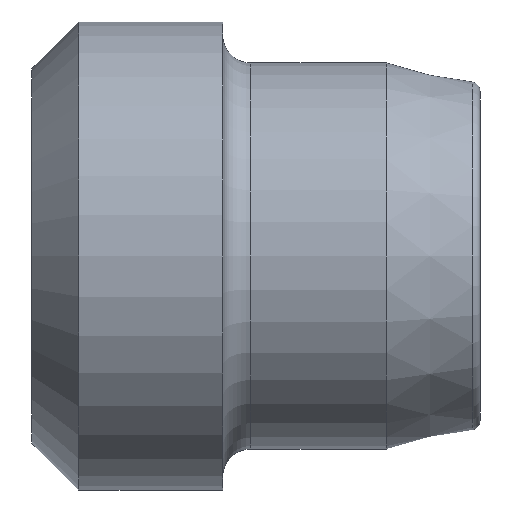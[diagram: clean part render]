
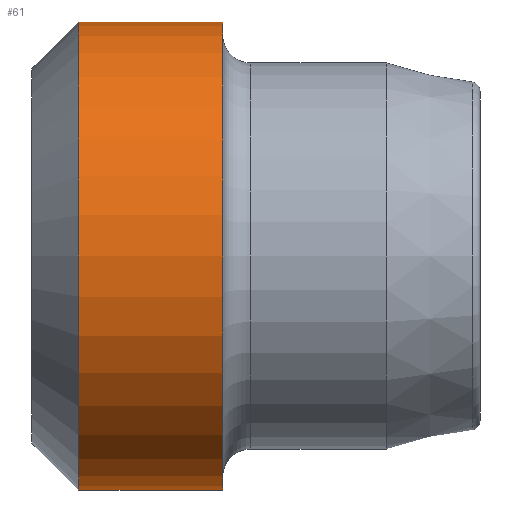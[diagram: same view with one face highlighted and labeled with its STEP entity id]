
A CAD part, front view. The second image highlights one B-rep face of the part: STEP entity #61.
In plain terms, the highlighted cylindrical face has radius 5 mm (diameter 10 mm), a full revolution.
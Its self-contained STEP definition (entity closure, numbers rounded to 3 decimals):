
#61 = ADVANCED_FACE( '', ( #130, #131 ), #132, .T. );
#130 = FACE_OUTER_BOUND( '', #231, .T. );
#131 = FACE_OUTER_BOUND( '', #232, .T. );
#132 = CYLINDRICAL_SURFACE( '', #233, 5. );
#231 = EDGE_LOOP( '', ( #311 ) );
#232 = EDGE_LOOP( '', ( #312 ) );
#233 = AXIS2_PLACEMENT_3D( '', #313, #314, #315 );
#311 = ORIENTED_EDGE( '', *, *, #344, .F. );
#312 = ORIENTED_EDGE( '', *, *, #335, .F. );
#313 = CARTESIAN_POINT( '', ( -2.788, 1.467, 0. ) );
#314 = DIRECTION( '', ( -1., 0., 0. ) );
#315 = DIRECTION( '', ( 0., 1., 0. ) );
#335 = EDGE_CURVE( '', #365, #365, #366, .T. );
#344 = EDGE_CURVE( '', #380, #380, #381, .T. );
#365 = VERTEX_POINT( '', #410 );
#366 = CIRCLE( '', #411, 5. );
#380 = VERTEX_POINT( '', #425 );
#381 = CIRCLE( '', #426, 5. );
#410 = CARTESIAN_POINT( '', ( -0.75, 6.467, 0. ) );
#411 = AXIS2_PLACEMENT_3D( '', #454, #455, #456 );
#425 = CARTESIAN_POINT( '', ( -3.825, -3.533, 0. ) );
#426 = AXIS2_PLACEMENT_3D( '', #472, #473, #474 );
#454 = CARTESIAN_POINT( '', ( -0.75, 1.467, 0. ) );
#455 = DIRECTION( '', ( 1., 0., 0. ) );
#456 = DIRECTION( '', ( 0., 1., 0. ) );
#472 = CARTESIAN_POINT( '', ( -3.825, 1.467, 0. ) );
#473 = DIRECTION( '', ( -1., 0., 0. ) );
#474 = DIRECTION( '', ( 0., -1., 0. ) );
